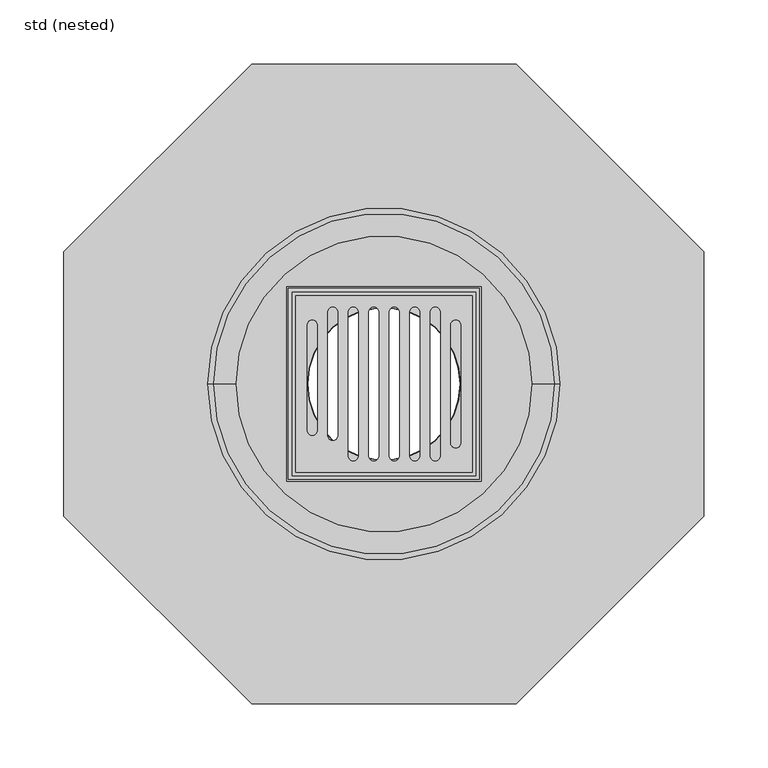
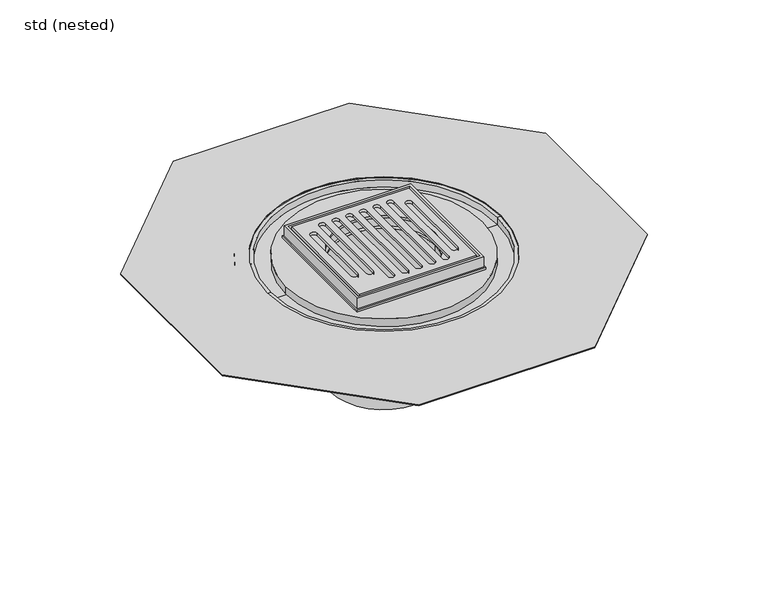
"""IFC4 building model written with IfcOpenShell, lengths in millimetres: sanitary terminal geometry, ZZZ_do not use_PF_GEN_UN_telescopic plastic gully top_ACO : std (nested)."""

from ifc_helpers import new_model, si_unit, point, frame, frame_2d, origin, origin_2d, place, context, project, spatial, polyline, circle_curve, trimmed, segment, composite_curve, outline, extrude, source, transform, mapped, element, save
from ifc_brep_helpers import plane_surface, cylinder_surface, revolved_surface, advanced_brep


def std_nested_e2511e1a(model_context):
    return source(origin(), model_context, "Body", "SolidModel", [
        advanced_brep(
        [(71.6, 71.6, 0.0), (71.6, 71.6, -9.6), (71.6, -71.6, -9.6), (71.6, -71.6, 0.0), (74.6, 74.6, -12.6), (74.6, 74.6, 0.0), (74.6, -74.6, 0.0), (74.6, -74.6, -12.6), (-71.6, -71.6, -9.6), (-71.6, -71.6, 0.0), (-74.6, -74.6, 0.0), (-74.6, -74.6, -12.6), (-71.6, 71.6, -9.6), (-71.6, 71.6, 0.0), (-74.6, 74.6, 0.0), (-74.6, 74.6, -12.6), (59.6, 0.0, -9.6), (-59.6, 0.0, -9.6), (-62.6, 0.0, -12.6), (62.6, 0.0, -12.6), (-62.6, 0.0, -22.5), (62.6, 0.0, -22.5), (-59.6, 0.0, -22.5), (59.6, 0.0, -22.5), (59.6, 0.0, -12.6), (-59.6, 0.0, -12.6)],
        [
            (0, 1),
            (1, 2),
            (2, 3),
            (3, 0),
            (4, 5),
            (5, 6),
            (6, 7),
            (7, 4),
            (2, 8),
            (8, 9),
            (9, 3),
            (6, 10),
            (10, 11),
            (11, 7),
            (8, 12),
            (12, 13),
            (13, 9),
            (10, 14),
            (14, 15),
            (15, 11),
            (1, 12),
            (16, 17, circle_curve(frame((0.0, 0.0, -9.6), z_axis=(0.0, 0.0, -1.0), x_axis=(1.0, 0.0, 0.0)), 59.6)),
            (17, 16, circle_curve(frame((0.0, 0.0, -9.6), z_axis=(0.0, 0.0, -1.0), x_axis=(1.0, 0.0, 0.0)), 59.6)),
            (0, 13),
            (5, 14),
            (4, 15),
            (18, 19, circle_curve(frame((0.0, 0.0, -12.6), z_axis=(0.0, 0.0, 1.0), x_axis=(1.0, 0.0, 0.0)), 62.6)),
            (19, 18, circle_curve(frame((0.0, 0.0, -12.6), z_axis=(0.0, 0.0, 1.0), x_axis=(1.0, 0.0, 0.0)), 62.6)),
            (20, 21, circle_curve(frame((0.0, 0.0, -22.5), z_axis=(0.0, 0.0, -1.0), x_axis=(1.0, 0.0, 0.0)), 62.6)),
            (21, 20, circle_curve(frame((0.0, 0.0, -22.5), z_axis=(0.0, 0.0, -1.0), x_axis=(1.0, 0.0, 0.0)), 62.6)),
            (22, 23, circle_curve(frame((0.0, 0.0, -22.5), z_axis=(0.0, 0.0, 1.0), x_axis=(1.0, 0.0, 0.0)), 59.6)),
            (23, 22, circle_curve(frame((0.0, 0.0, -22.5), z_axis=(0.0, 0.0, 1.0), x_axis=(1.0, 0.0, 0.0)), 59.6)),
            (21, 19),
            (18, 20),
            (23, 24),
            (24, 25, circle_curve(frame((0.0, 0.0, -12.6), z_axis=(0.0, 0.0, 1.0), x_axis=(1.0, 0.0, 0.0)), 59.6)),
            (25, 22),
            (25, 24, circle_curve(frame((0.0, 0.0, -12.6), z_axis=(0.0, 0.0, 1.0), x_axis=(1.0, 0.0, 0.0)), 59.6)),
            (16, 24),
            (25, 17),
        ],
        [
            plane_surface(frame((71.6, 71.6, -9.6), z_axis=(-1.0, 0.0, 0.0), x_axis=(0.0, -1.0, 0.0))),
            plane_surface(frame((74.6, 74.6, 0.0), z_axis=(1.0, 0.0, 0.0), x_axis=(0.0, -1.0, 0.0))),
            plane_surface(frame((71.6, -71.6, -9.6), z_axis=(0.0, 1.0, 0.0), x_axis=(-1.0, 0.0, 0.0))),
            plane_surface(frame((74.6, -74.6, 0.0), z_axis=(0.0, -1.0, 0.0), x_axis=(-1.0, 0.0, 0.0))),
            plane_surface(frame((-71.6, -71.6, -9.6), z_axis=(1.0, 0.0, 0.0), x_axis=(0.0, 1.0, 0.0))),
            plane_surface(frame((-74.6, -74.6, 0.0), z_axis=(-1.0, 0.0, 0.0), x_axis=(0.0, 1.0, 0.0))),
            plane_surface(frame((0.0, 0.0, -9.6), z_axis=(0.0, 0.0, 1.0), x_axis=(1.0, 0.0, 0.0))),
            plane_surface(frame((-71.6, 71.6, -9.6), z_axis=(0.0, -1.0, 0.0), x_axis=(1.0, 0.0, 0.0))),
            plane_surface(frame((-71.6, 71.6, 0.0), z_axis=(0.0, 0.0, 1.0), x_axis=(1.0, 0.0, 0.0))),
            plane_surface(frame((-74.6, 74.6, 0.0), z_axis=(0.0, 1.0, 0.0), x_axis=(1.0, 0.0, 0.0))),
            plane_surface(frame((-74.6, 74.6, -12.6), z_axis=(0.0, 0.0, -1.0), x_axis=(1.0, 0.0, 0.0))),
            plane_surface(frame((62.6, 0.0, -22.5), z_axis=(0.0, 0.0, -1.0), x_axis=(0.0, -1.0, 0.0))),
            cylinder_surface(frame((0.0, 0.0, -22.5), z_axis=(0.0, 0.0, 1.0), x_axis=(1.0, 0.0, 0.0)), 62.6),
            revolved_surface(polyline([(59.6, 0.0, -22.5), (59.6, 0.0, -12.6)]), (0.0, 0.0, 0.0), (0.0, 0.0, -1.0)),
            revolved_surface(polyline([(59.6, 0.0, -9.6), (59.6, 0.0, -12.6)]), (0.0, 0.0, -12.6), (0.0, 0.0, 1.0)),
        ],
        [
            (0, [[1, 2, 3, 4]]),
            (1, [[5, 6, 7, 8]]),
            (2, [[-3, 9, 10, 11]]),
            (3, [[-7, 12, 13, 14]]),
            (4, [[-10, 15, 16, 17]]),
            (5, [[-13, 18, 19, 20]]),
            (6, [[-2, 21, -15, -9], [22, 23]]),
            (7, [[-1, 24, -16, -21]]),
            (8, [[-6, 25, -18, -12], [-4, -11, -17, -24]]),
            (9, [[-5, 26, -19, -25]]),
            (10, [[-8, -14, -20, -26], [27, 28]]),
            (11, [[29, 30], [31, 32]]),
            (12, [[-30, 33, -27, 34]]),
            (12, [[-29, -34, -28, -33]]),
            (13, [[-32, 35, 36, 37]]),
            (13, [[-31, -37, 38, -35]]),
            (14, [[39, -38, 40, -22]]),
            (14, [[-39, -23, -40, -36]]),
        ],
    ),
        extrude(outline(polyline([(-103.5, 250.0), (103.5, 250.0), (250.0, 103.5), (250.0, -103.5), (103.5, -250.0), (-103.5, -250.0), (-250.0, -103.5), (-250.0, 103.5), (-103.5, 250.0)]), holes=[composite_curve([segment(trimmed(circle_curve(origin_2d(), 137.5), [point((-137.5, 0.0))], [point((137.5, 0.0))], True, "CARTESIAN"), True, "CONTINUOUS"), segment(trimmed(circle_curve(origin_2d(), 137.5), [point((137.5, 0.0))], [point((-137.5, 0.0))], True, "CARTESIAN"), True, "CONTINUOUS")], self_intersect=False)]), frame((0.0, 0.0, -17.0), z_axis=(0.0, 0.0, 1.0), x_axis=(1.0, 0.0, 0.0)), (0.0, 0.0, 1.0), 1.0),
        advanced_brep(
        [(153.5, 0.0, -20.0), (-153.5, 0.0, -20.0), (-153.5, 0.0, -17.0), (153.5, 0.0, -17.0), (136.5, 0.0, -20.0), (-136.5, 0.0, -20.0), (-133.5, 0.0, -17.0), (133.5, 0.0, -17.0), (136.5, 0.0, -29.0), (-136.5, 0.0, -29.0), (62.5, 0.0, -29.0), (-62.5, 0.0, -29.0), (62.5, 0.0, -166.0), (-62.5, 0.0, -166.0), (59.5, 0.0, -166.0), (-59.5, 0.0, -166.0), (59.5, 0.0, -26.0), (-59.5, 0.0, -26.0), (133.5, 0.0, -26.0), (-133.5, 0.0, -26.0)],
        [
            (0, 1, circle_curve(frame((0.0, 0.0, -20.0), z_axis=(0.0, 0.0, 1.0), x_axis=(-1.0, 0.0, 0.0)), 153.5)),
            (1, 2),
            (2, 3, circle_curve(frame((0.0, 0.0, -17.0), z_axis=(0.0, 0.0, -1.0), x_axis=(-1.0, 0.0, 0.0)), 153.5)),
            (3, 0),
            (1, 0, circle_curve(frame((0.0, 0.0, -20.0), z_axis=(0.0, 0.0, 1.0), x_axis=(-1.0, 0.0, 0.0)), 153.5)),
            (3, 2, circle_curve(frame((0.0, 0.0, -17.0), z_axis=(0.0, 0.0, -1.0), x_axis=(-1.0, 0.0, 0.0)), 153.5)),
            (4, 5, circle_curve(frame((0.0, 0.0, -20.0), z_axis=(0.0, 0.0, 1.0), x_axis=(-1.0, 0.0, 0.0)), 136.5)),
            (5, 1),
            (0, 4),
            (5, 4, circle_curve(frame((0.0, 0.0, -20.0), z_axis=(0.0, 0.0, 1.0), x_axis=(-1.0, 0.0, 0.0)), 136.5)),
            (2, 6),
            (6, 7, circle_curve(frame((0.0, 0.0, -17.0), z_axis=(0.0, 0.0, -1.0), x_axis=(-1.0, 0.0, 0.0)), 133.5)),
            (7, 3),
            (7, 6, circle_curve(frame((0.0, 0.0, -17.0), z_axis=(0.0, 0.0, -1.0), x_axis=(-1.0, 0.0, 0.0)), 133.5)),
            (8, 9, circle_curve(frame((0.0, 0.0, -29.0), z_axis=(0.0, 0.0, 1.0), x_axis=(-1.0, 0.0, 0.0)), 136.5)),
            (9, 5),
            (4, 8),
            (9, 8, circle_curve(frame((0.0, 0.0, -29.0), z_axis=(0.0, 0.0, 1.0), x_axis=(-1.0, 0.0, 0.0)), 136.5)),
            (10, 11, circle_curve(frame((0.0, 0.0, -29.0), z_axis=(0.0, 0.0, 1.0), x_axis=(-1.0, 0.0, 0.0)), 62.5)),
            (11, 9),
            (8, 10),
            (11, 10, circle_curve(frame((0.0, 0.0, -29.0), z_axis=(0.0, 0.0, 1.0), x_axis=(-1.0, 0.0, 0.0)), 62.5)),
            (12, 13, circle_curve(frame((0.0, 0.0, -166.0), z_axis=(0.0, 0.0, 1.0), x_axis=(-1.0, 0.0, 0.0)), 62.5)),
            (13, 11),
            (10, 12),
            (13, 12, circle_curve(frame((0.0, 0.0, -166.0), z_axis=(0.0, 0.0, 1.0), x_axis=(-1.0, 0.0, 0.0)), 62.5)),
            (14, 15, circle_curve(frame((0.0, 0.0, -166.0), z_axis=(0.0, 0.0, 1.0), x_axis=(-1.0, 0.0, 0.0)), 59.5)),
            (15, 13),
            (12, 14),
            (15, 14, circle_curve(frame((0.0, 0.0, -166.0), z_axis=(0.0, 0.0, 1.0), x_axis=(-1.0, 0.0, 0.0)), 59.5)),
            (16, 17, circle_curve(frame((0.0, 0.0, -26.0), z_axis=(0.0, 0.0, 1.0), x_axis=(-1.0, 0.0, 0.0)), 59.5)),
            (17, 15),
            (14, 16),
            (17, 16, circle_curve(frame((0.0, 0.0, -26.0), z_axis=(0.0, 0.0, 1.0), x_axis=(-1.0, 0.0, 0.0)), 59.5)),
            (18, 19, circle_curve(frame((0.0, 0.0, -26.0), z_axis=(0.0, 0.0, 1.0), x_axis=(-1.0, 0.0, 0.0)), 133.5)),
            (19, 17),
            (16, 18),
            (19, 18, circle_curve(frame((0.0, 0.0, -26.0), z_axis=(0.0, 0.0, 1.0), x_axis=(-1.0, 0.0, 0.0)), 133.5)),
            (6, 19),
            (18, 7),
        ],
        [
            cylinder_surface(frame((0.0, 0.0, 17.0), z_axis=(0.0, 0.0, -1.0), x_axis=(-1.0, 0.0, 0.0)), 153.5),
            plane_surface(frame((0.0, 0.0, -20.0), z_axis=(0.0, 0.0, -1.0), x_axis=(-1.0, 0.0, 0.0))),
            plane_surface(frame((0.0, 0.0, -17.0), z_axis=(0.0, 0.0, 1.0), x_axis=(-1.0, 0.0, 0.0))),
            cylinder_surface(frame((0.0, 0.0, 17.0), z_axis=(0.0, 0.0, -1.0), x_axis=(-1.0, 0.0, 0.0)), 136.5),
            plane_surface(frame((0.0, 0.0, -29.0), z_axis=(0.0, 0.0, -1.0), x_axis=(-1.0, 0.0, 0.0))),
            cylinder_surface(frame((0.0, 0.0, 17.0), z_axis=(0.0, 0.0, -1.0), x_axis=(-1.0, 0.0, 0.0)), 62.5),
            plane_surface(frame((0.0, 0.0, -166.0), z_axis=(0.0, 0.0, -1.0), x_axis=(-1.0, 0.0, 0.0))),
            revolved_surface(polyline([(-59.5, 0.0, -166.0), (-59.5, 0.0, -26.0)]), (0.0, 0.0, 17.0), (0.0, 0.0, -1.0)),
            plane_surface(frame((0.0, 0.0, -26.0), z_axis=(0.0, 0.0, 1.0), x_axis=(-1.0, 0.0, 0.0))),
            revolved_surface(polyline([(-133.5, 0.0, -26.0), (-133.5, 0.0, -17.0)]), (0.0, 0.0, 17.0), (0.0, 0.0, -1.0)),
        ],
        [
            (0, [[1, 2, 3, 4]]),
            (0, [[5, -4, 6, -2]]),
            (1, [[7, 8, -1, 9]]),
            (1, [[10, -9, -5, -8]]),
            (2, [[-3, 11, 12, 13]]),
            (2, [[-6, -13, 14, -11]]),
            (3, [[15, 16, -7, 17]]),
            (3, [[18, -17, -10, -16]]),
            (4, [[19, 20, -15, 21]]),
            (4, [[22, -21, -18, -20]]),
            (5, [[23, 24, -19, 25]]),
            (5, [[26, -25, -22, -24]]),
            (6, [[27, 28, -23, 29]]),
            (6, [[30, -29, -26, -28]]),
            (7, [[31, 32, -27, 33]]),
            (7, [[34, -33, -30, -32]]),
            (8, [[35, 36, -31, 37]]),
            (8, [[38, -37, -34, -36]]),
            (9, [[-12, 39, -35, 40]]),
            (9, [[-14, -40, -38, -39]]),
        ],
    ),
        extrude(outline(composite_curve([segment(trimmed(circle_curve(origin_2d(), 115.5), [point((-115.5, 0.0))], [point((115.5, 0.0))], False, "CARTESIAN"), True, "CONTINUOUS"), segment(trimmed(circle_curve(origin_2d(), 115.5), [point((115.5, 0.0))], [point((-115.5, 0.0))], False, "CARTESIAN"), True, "CONTINUOUS")], self_intersect=False), holes=[polyline([(70.0, 70.0), (-70.0, 70.0), (-70.0, -70.0), (70.0, -70.0), (70.0, 70.0)])]), frame((0.0, 0.0, -25.5), z_axis=(0.0, 0.0, 1.0), x_axis=(1.0, 0.0, 0.0)), (0.0, 0.0, 1.0), 9.5),
        extrude(outline(polyline([(76.0, 76.0), (76.0, -76.0), (-76.0, -76.0), (-76.0, 76.0), (76.0, 76.0)]), holes=[polyline([(70.0, 70.0), (-70.0, 70.0), (-70.0, -70.0), (70.0, -70.0), (70.0, 70.0)])]), frame((0.0, 0.0, -16.0), z_axis=(0.0, 0.0, 1.0), x_axis=(1.0, 0.0, 0.0)), (0.0, 0.0, 1.0), 3.0),
        extrude(outline(polyline([(69.0, 69.0), (69.0, -69.0), (-69.0, -69.0), (-69.0, 69.0), (69.0, 69.0)]), holes=[composite_curve([segment(polyline([(4.0, 56.0), (4.0, -56.0)]), True, "CONTINUOUS"), segment(trimmed(circle_curve(frame_2d((8.0, -56.0)), 4.0), [point((4.0, -56.0))], [point((12.0, -56.0))], True, "CARTESIAN"), True, "CONTINUOUS"), segment(polyline([(12.0, -56.0), (12.0, 56.0)]), True, "CONTINUOUS"), segment(trimmed(circle_curve(frame_2d((8.0, 56.0)), 4.0), [point((12.0, 56.0))], [point((4.0, 56.0))], True, "CARTESIAN"), True, "CONTINUOUS")], self_intersect=False), composite_curve([segment(trimmed(circle_curve(frame_2d((-8.0, 56.0)), 4.0), [point((-4.0, 56.0))], [point((-12.0, 56.0))], True, "CARTESIAN"), True, "CONTINUOUS"), segment(polyline([(-12.0, 56.0), (-12.0, -56.0)]), True, "CONTINUOUS"), segment(trimmed(circle_curve(frame_2d((-8.0, -56.0)), 4.0), [point((-12.0, -56.0))], [point((-4.0, -56.0))], True, "CARTESIAN"), True, "CONTINUOUS"), segment(polyline([(-4.0, -56.0), (-4.0, 56.0)]), True, "CONTINUOUS")], self_intersect=False), composite_curve([segment(trimmed(circle_curve(frame_2d((-56.0, 46.0)), 4.0), [point((-52.0, 46.0))], [point((-60.0, 46.0))], True, "CARTESIAN"), True, "CONTINUOUS"), segment(polyline([(-60.0, 46.0), (-60.0, -36.1)]), True, "CONTINUOUS"), segment(trimmed(circle_curve(frame_2d((-56.0, -36.1)), 4.0), [point((-60.0, -36.1))], [point((-52.0, -36.1))], True, "CARTESIAN"), True, "CONTINUOUS"), segment(polyline([(-52.0, -36.1), (-52.0, 46.0)]), True, "CONTINUOUS")], self_intersect=False), composite_curve([segment(polyline([(52.0, 46.0), (52.0, -46.0)]), True, "CONTINUOUS"), segment(trimmed(circle_curve(frame_2d((56.0, -46.0)), 4.0), [point((52.0, -46.0))], [point((60.0, -46.0))], True, "CARTESIAN"), True, "CONTINUOUS"), segment(polyline([(60.0, -46.0), (60.0, 46.0)]), True, "CONTINUOUS"), segment(trimmed(circle_curve(frame_2d((56.0, 46.0)), 4.0), [point((60.0, 46.0))], [point((52.0, 46.0))], True, "CARTESIAN"), True, "CONTINUOUS")], self_intersect=False), composite_curve([segment(trimmed(circle_curve(frame_2d((-24.0, 56.0)), 4.0), [point((-20.0, 56.0))], [point((-28.0, 56.0))], True, "CARTESIAN"), True, "CONTINUOUS"), segment(polyline([(-28.0, 56.0), (-28.0, -56.0)]), True, "CONTINUOUS"), segment(trimmed(circle_curve(frame_2d((-24.0, -56.0)), 4.0), [point((-28.0, -56.0))], [point((-20.0, -56.0))], True, "CARTESIAN"), True, "CONTINUOUS"), segment(polyline([(-20.0, -56.0), (-20.0, 56.0)]), True, "CONTINUOUS")], self_intersect=False), composite_curve([segment(trimmed(circle_curve(frame_2d((-40.0, 56.0)), 4.0), [point((-36.0, 56.0))], [point((-44.0, 56.0))], True, "CARTESIAN"), True, "CONTINUOUS"), segment(polyline([(-44.0, 56.0), (-44.0, -40.1)]), True, "CONTINUOUS"), segment(trimmed(circle_curve(frame_2d((-40.0, -40.1)), 4.0), [point((-44.0, -40.1))], [point((-36.0, -40.1))], True, "CARTESIAN"), True, "CONTINUOUS"), segment(polyline([(-36.0, -40.1), (-36.0, 56.0)]), True, "CONTINUOUS")], self_intersect=False), composite_curve([segment(polyline([(20.0, 56.0), (20.0, -56.0)]), True, "CONTINUOUS"), segment(trimmed(circle_curve(frame_2d((24.0, -56.0)), 4.0), [point((20.0, -56.0))], [point((28.0, -56.0))], True, "CARTESIAN"), True, "CONTINUOUS"), segment(polyline([(28.0, -56.0), (28.0, 56.0)]), True, "CONTINUOUS"), segment(trimmed(circle_curve(frame_2d((24.0, 56.0)), 4.0), [point((28.0, 56.0))], [point((20.0, 56.0))], True, "CARTESIAN"), True, "CONTINUOUS")], self_intersect=False), composite_curve([segment(polyline([(36.0, 56.0), (36.0, -56.0)]), True, "CONTINUOUS"), segment(trimmed(circle_curve(frame_2d((40.0, -56.0)), 4.0), [point((36.0, -56.0))], [point((44.0, -56.0))], True, "CARTESIAN"), True, "CONTINUOUS"), segment(polyline([(44.0, -56.0), (44.0, 56.0)]), True, "CONTINUOUS"), segment(trimmed(circle_curve(frame_2d((40.0, 56.0)), 4.0), [point((44.0, 56.0))], [point((36.0, 56.0))], True, "CARTESIAN"), True, "CONTINUOUS")], self_intersect=False)]), frame((0.0, 0.0, -3.0), z_axis=(0.0, 0.0, 1.0), x_axis=(1.0, 0.0, 0.0)), (0.0, 0.0, 1.0), 3.0),
    ])


if __name__ == "__main__":
    model = new_model("IFC4")
    model_context = context("Model", 3, world=origin())
    ifc_project = project(units=[si_unit("LENGTHUNIT", "METRE", prefix="MILLI")], contexts=[model_context])
    site = spatial("IfcSite", under=ifc_project)
    building = spatial("IfcBuilding", under=site)
    placement = place(None, origin())
    std_nested_shape = std_nested_e2511e1a(model_context)
    element("IfcSanitaryTerminal", 1, ObjectType="ZZZ_do not use_PF_GEN_UN_telescopic plastic gully top_ACO : std (nested)", at=placement, inside=building, context=model_context, shape_type="MappedRepresentation", body=[
        mapped(std_nested_shape, transform((0.0, 0.0, 0.0), x_axis=(1.0, 0.0, 0.0), y_axis=(0.0, 1.0, 0.0), z_axis=(0.0, 0.0, 1.0))),
    ])
    save(model, "model.ifc")
